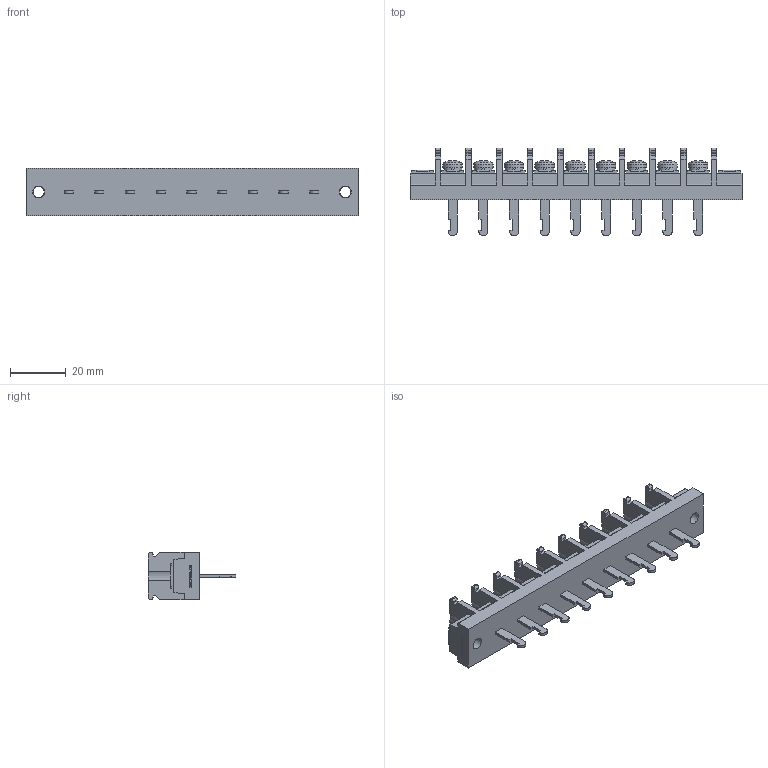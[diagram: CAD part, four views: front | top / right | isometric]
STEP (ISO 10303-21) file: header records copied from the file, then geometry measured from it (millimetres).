
FILE_DESCRIPTION(/* description */ ('Alibre Inc.'),/* implementation_level */ '2;1');
FILE_NAME(/* name */ 'export0',/* time_stamp */ '2015-10-19T20:01:42+09:00',/* author */ (''),/* organization */ (''),/* preprocessor_version */ 'ST-DEVELOPER v14',/* originating_system */ 'Alibre',/* authorisation */ '');
FILE_SCHEMA (('CONFIG_CONTROL_DESIGN'));
Length unit declared in the file: centimetre
Products named in the file (1): ID_1
Bounding box: 119 x 31.5 x 17 mm (x, y, z)
Volume: 21834.5 mm3; surface area: 12798.7 mm2
Topology: 1 solids, 1 shells, 1155 faces, 3221 edges, 2139 vertices
Faces by surface type: plane 822, cylinder 166, bspline 104, cone 36, torus 18, sphere 9
Full cylindrical faces by diameter (mm): 4 x11, 4.2 x2, 6.5 x9, 7 x9
Entity records: 35750 total; most frequent: CARTESIAN_POINT 7586, ORIENTED_EDGE 6304, DIRECTION 4691, EDGE_CURVE 3152, VECTOR 2242, LINE 2242, VERTEX_POINT 2110, AXIS2_PLACEMENT_3D 1626
